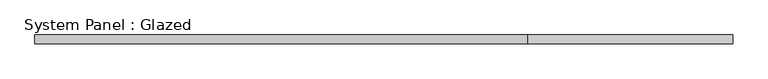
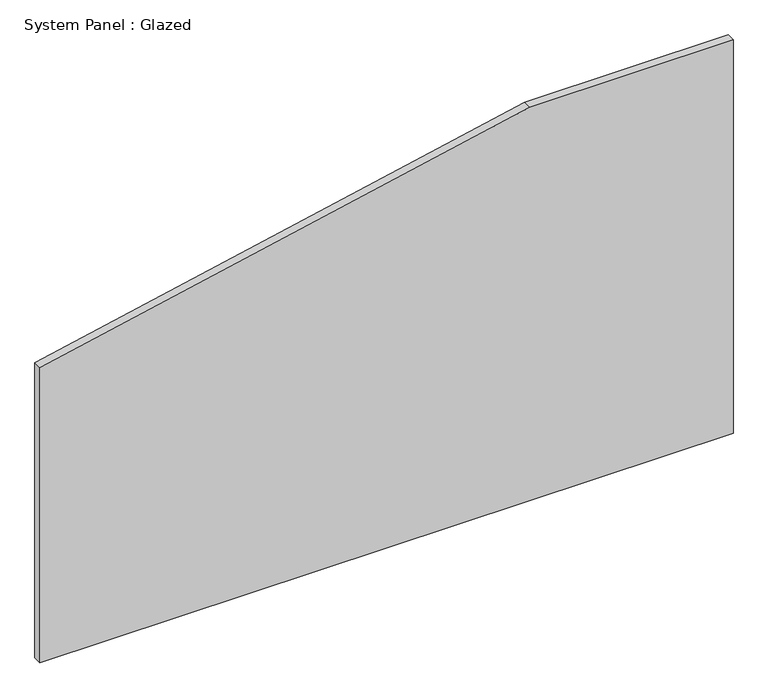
"""IFC4 building model written with IfcOpenShell, lengths in millimetres: plate geometry, System Panel : Glazed."""

from ifc_helpers import new_model, si_unit, frame, origin, place, context, project, spatial, polyline, outline, extrude, source, transform, mapped, element, save


def system_panel_glazed_2cf4602f(model_context):
    return source(origin(), model_context, "Body", "SweptSolid", [
        extrude(outline(polyline([(0.0, -1000.0), (0.0, 1000.0), (1200.0, 1000.0), (1200.0, 413.7040876), (899.5079199, -1000.0), (0.0, -1000.0)])), frame((0.0, -49.5, 0.0), z_axis=(0.0, 1.0, 0.0), x_axis=(0.0, 0.0, 1.0)), (0.0, 0.0, 1.0), 25.0),
    ])


if __name__ == "__main__":
    model = new_model("IFC4")
    model_context = context("Model", 3, world=origin())
    ifc_project = project(units=[si_unit("LENGTHUNIT", "METRE", prefix="MILLI")], contexts=[model_context])
    site = spatial("IfcSite", under=ifc_project)
    building = spatial("IfcBuilding", under=site)
    placement = place(None, origin())
    system_panel_glazed_shape = system_panel_glazed_2cf4602f(model_context)
    element("IfcPlate", 1, ObjectType="System Panel : Glazed", at=placement, inside=building, context=model_context, shape_type="MappedRepresentation", body=[
        mapped(system_panel_glazed_shape, transform((0.0, 0.0, 0.0), x_axis=(1.0, 0.0, 0.0), y_axis=(0.0, 1.0, 0.0), z_axis=(0.0, 0.0, 1.0))),
    ])
    save(model, "model.ifc")
